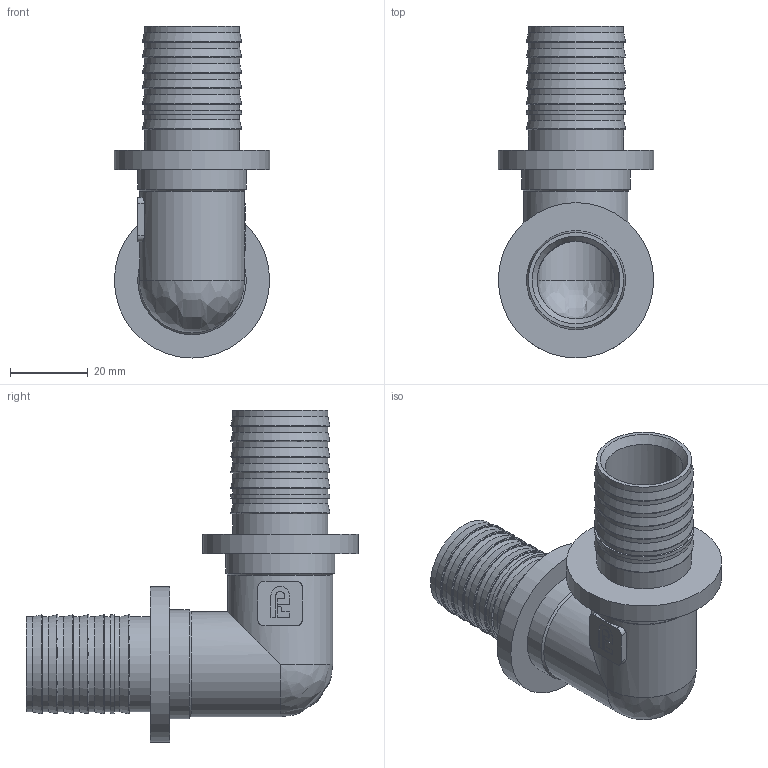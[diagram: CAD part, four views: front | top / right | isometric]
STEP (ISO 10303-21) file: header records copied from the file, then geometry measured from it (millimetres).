
FILE_DESCRIPTION(/* description */ (''),/* implementation_level */ '2;1');
FILE_NAME(/* name */ 'C:\Users\Doom\Desktop\Фадотех\Натяжка\FD-SFU04 NEW 32X32 18.12.2019\FD-SFU04 NEW 32X32 18.12.2019.stp',/* time_stamp */ '2022-07-24T21:54:21+03:00',/* author */ ('Doom'),/* organization */ (''),/* preprocessor_version */ 'ST-DEVELOPER v18',/* originating_system */ 'Autodesk Inventor 2020',/* authorisation */ '');
FILE_SCHEMA (('AUTOMOTIVE_DESIGN { 1 0 10303 214 3 1 1 }'));
Length unit declared in the file: millimetre
Products named in the file (1): FD-SFU04 NEW 32X32 18.12.2019
Bounding box: 40 x 85.5 x 85.5 mm (x, y, z)
Volume: 34900.5 mm3; surface area: 22863.8 mm2
Topology: 1 solids, 1 shells, 212 faces, 619 edges, 428 vertices
Faces by surface type: bspline 82, plane 71, cylinder 31, cone 16, torus 12
Full cylindrical faces by diameter (mm): 20 x2, 24.5 x16, 25.5 x2, 27 x2, 28 x2, 40 x2
Entity records: 9021 total; most frequent: CARTESIAN_POINT 3688, ORIENTED_EDGE 1230, DIRECTION 921, EDGE_CURVE 615, VERTEX_POINT 428, AXIS2_PLACEMENT_3D 343, EDGE_LOOP 237, LINE 235
